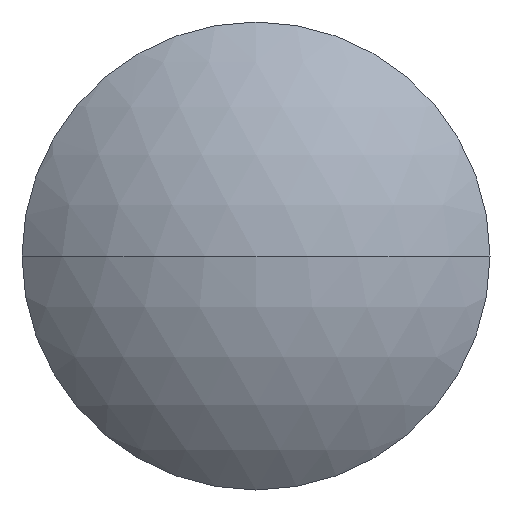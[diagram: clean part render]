
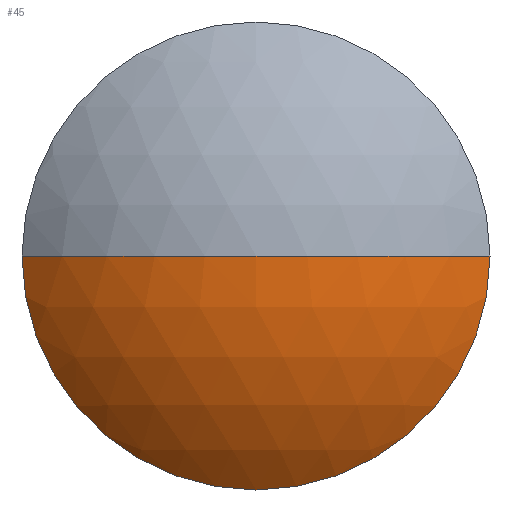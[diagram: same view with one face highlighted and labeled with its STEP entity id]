
A CAD part, left-side view. The second image highlights one B-rep face of the part: STEP entity #45.
In plain terms, the highlighted spherical face has radius 35.446 mm.
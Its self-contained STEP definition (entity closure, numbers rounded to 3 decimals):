
#1 = CARTESIAN_POINT ( 'NONE',  ( -2.5, 0., 0. ) ) ;
#2 = AXIS2_PLACEMENT_3D ( 'NONE', #1, #274, #190 ) ;
#28 = CARTESIAN_POINT ( 'NONE',  ( -2.5, 0., -24.15 ) ) ;
#32 = ORIENTED_EDGE ( 'NONE', *, *, #67, .F. ) ;
#34 = CIRCLE ( 'NONE', #2, 24.15 ) ;
#35 = EDGE_LOOP ( 'NONE', ( #111, #114, #143, #32 ) ) ;
#41 = EDGE_CURVE ( 'NONE', #173, #195, #126, .T. ) ;
#45 = ADVANCED_FACE ( 'NONE', ( #122 ), #125, .T. ) ;
#64 = CARTESIAN_POINT ( 'NONE',  ( 23.446, 0., 0. ) ) ;
#67 = EDGE_CURVE ( 'NONE', #203, #227, #249, .T. ) ;
#93 = DIRECTION ( 'NONE',  ( 0., 0., 1. ) ) ;
#94 = CARTESIAN_POINT ( 'NONE',  ( 23.446, 0., 0. ) ) ;
#100 = CIRCLE ( 'NONE', #218, 35.446 ) ;
#111 = ORIENTED_EDGE ( 'NONE', *, *, #169, .T. ) ;
#114 = ORIENTED_EDGE ( 'NONE', *, *, #41, .T. ) ;
#122 = FACE_OUTER_BOUND ( 'NONE', #35, .T. ) ;
#125 = SPHERICAL_SURFACE ( 'NONE', #136, 35.446 ) ;
#126 = CIRCLE ( 'NONE', #141, 24.15 ) ;
#133 = CARTESIAN_POINT ( 'NONE',  ( -2.5, 24.15, 0. ) ) ;
#135 = CARTESIAN_POINT ( 'NONE',  ( -2.5, -24.15, 0. ) ) ;
#136 = AXIS2_PLACEMENT_3D ( 'NONE', #321, #294, #212 ) ;
#138 = EDGE_CURVE ( 'NONE', #195, #227, #100, .T. ) ;
#141 = AXIS2_PLACEMENT_3D ( 'NONE', #346, #240, #183 ) ;
#143 = ORIENTED_EDGE ( 'NONE', *, *, #138, .T. ) ;
#169 = EDGE_CURVE ( 'NONE', #203, #173, #34, .T. ) ;
#173 = VERTEX_POINT ( 'NONE', #28 ) ;
#179 = DIRECTION ( 'NONE',  ( 0., 0., -1. ) ) ;
#183 = DIRECTION ( 'NONE',  ( 0., 0., 1. ) ) ;
#190 = DIRECTION ( 'NONE',  ( 0., 0., 1. ) ) ;
#195 = VERTEX_POINT ( 'NONE', #135 ) ;
#203 = VERTEX_POINT ( 'NONE', #133 ) ;
#210 = DIRECTION ( 'NONE',  ( 0., 1., 0. ) ) ;
#212 = DIRECTION ( 'NONE',  ( 0., 1., 0. ) ) ;
#218 = AXIS2_PLACEMENT_3D ( 'NONE', #64, #179, #210 ) ;
#227 = VERTEX_POINT ( 'NONE', #245 ) ;
#234 = DIRECTION ( 'NONE',  ( 1., 0., 0. ) ) ;
#240 = DIRECTION ( 'NONE',  ( -1., 0., 0. ) ) ;
#245 = CARTESIAN_POINT ( 'NONE',  ( -12., 0., 0. ) ) ;
#249 = CIRCLE ( 'NONE', #318, 35.446 ) ;
#274 = DIRECTION ( 'NONE',  ( -1., 0., 0. ) ) ;
#294 = DIRECTION ( 'NONE',  ( 0., 0., -1. ) ) ;
#318 = AXIS2_PLACEMENT_3D ( 'NONE', #94, #93, #234 ) ;
#321 = CARTESIAN_POINT ( 'NONE',  ( 23.446, 0., 0. ) ) ;
#346 = CARTESIAN_POINT ( 'NONE',  ( -2.5, 0., 0. ) ) ;
